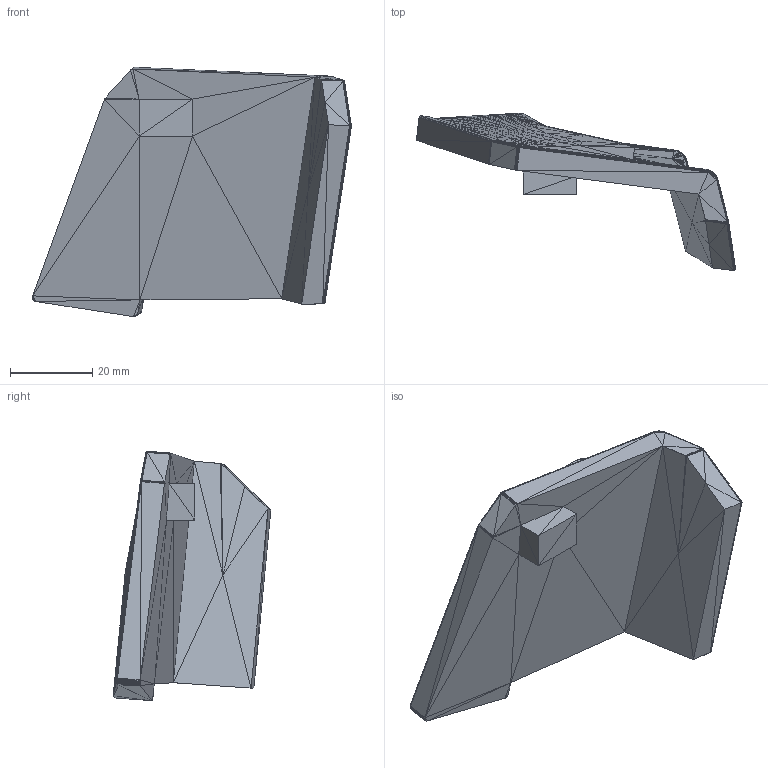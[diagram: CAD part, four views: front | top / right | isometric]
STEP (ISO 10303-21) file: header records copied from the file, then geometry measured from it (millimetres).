
FILE_DESCRIPTION((''),'2;1');
FILE_NAME('Front Vent Left', '2025-03-27T07:31:07', (''), (''), 'ImageToStl.com STEP Converter','', '');
FILE_SCHEMA(('AUTOMOTIVE_DESIGN_CC2'));
Length unit declared in the file: metre
Products named in the file (1): product0
Bounding box: 77.68 x 38.39 x 60.75 mm (x, y, z)
Surface area: 11254.2 mm2 (no closed solid volume)
Topology: 0 solids, 14520 shells, 14520 faces, 43560 edges, 7262 vertices
Faces by surface type: plane 14520
Entity records: 348519 total; most frequent: DIRECTION 72602, ORIENTED_EDGE 43560, EDGE_CURVE 43560, LINE 43560, VECTOR 43560, AXIS2_PLACEMENT_3D 14521, STYLED_ITEM 14521, FACE_SURFACE 14520
